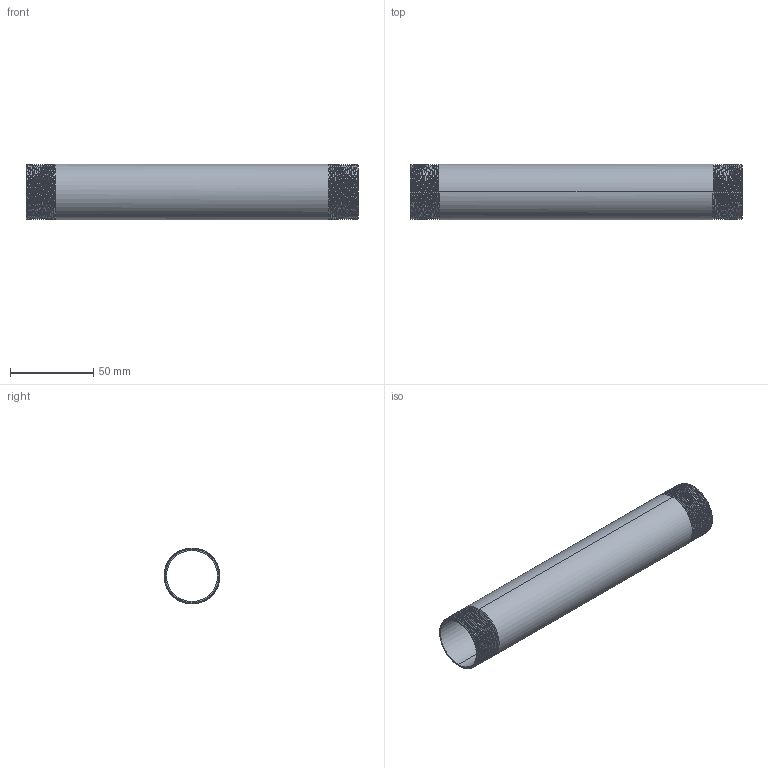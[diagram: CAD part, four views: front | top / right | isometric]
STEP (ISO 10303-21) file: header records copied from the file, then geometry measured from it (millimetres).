
FILE_DESCRIPTION (( 'STEP AP203' ), '1' );
FILE_NAME ('3D_R210_1x200_17185650.STEP', '2024-08-16T10:57:59', ( '' ), ( '' ), 'SwSTEP 2.0', 'SolidWorks 2024', '' );
FILE_SCHEMA (( 'CONFIG_CONTROL_DESIGN' ));
Length unit declared in the file: millimetre
Products named in the file (1): 3D_R210_1x200_17185650
Bounding box: 200 x 33.69 x 33.7 mm (x, y, z)
Volume: 29007.2 mm3; surface area: 42523 mm2
Topology: 1 solids, 1 shells, 74 faces, 212 edges, 140 vertices
Faces by surface type: cone 60, bspline 6, cylinder 4, plane 4
Entity records: 12052 total; most frequent: CARTESIAN_POINT 10328, ORIENTED_EDGE 424, DIRECTION 224, EDGE_CURVE 212, VERTEX_POINT 140, B_SPLINE_CURVE_WITH_KNOTS 128, AXIS2_PLACEMENT_3D 79, EDGE_LOOP 76
